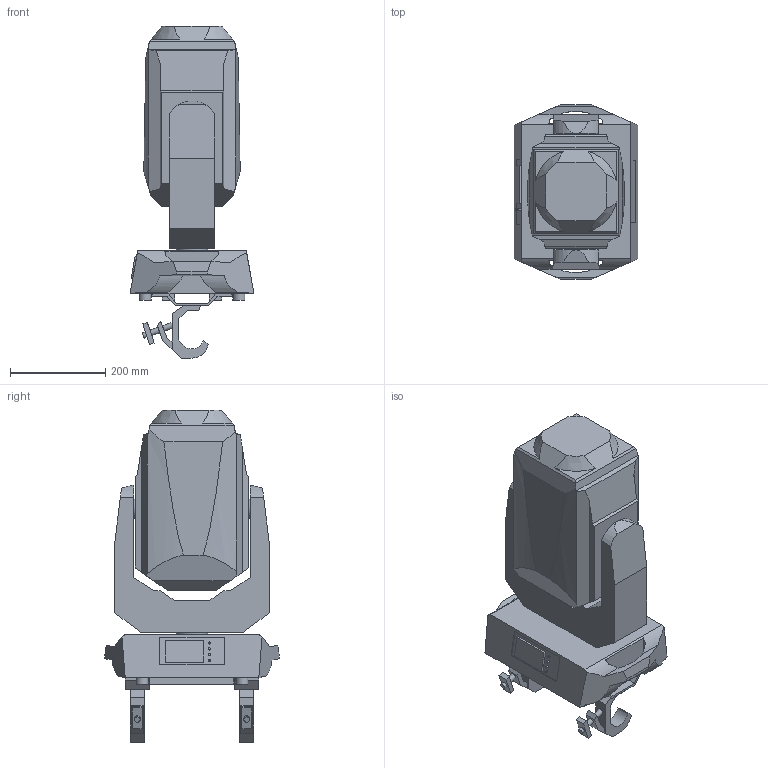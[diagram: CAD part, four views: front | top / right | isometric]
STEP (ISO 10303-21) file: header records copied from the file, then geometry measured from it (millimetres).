
FILE_DESCRIPTION( ( 'Unknown' ), '1' );
FILE_NAME( 'K:/Robin POINT/01 Robin Point/08 3D_2D dimensions/3D_RobinPointe_00.stp', 'Unknown', ( '*' ), ( '*' ), 'PSStep 15.0.49', 'SolidEdge', ' ' );
FILE_SCHEMA( ( 'AUTOMOTIVE_DESIGN { 1 0 10303 214 1 1 1 1 }' ) );
Length unit declared in the file: millimetre
Products named in the file (7): Omega_SlimClamp_00; Omega+SlimClamp; Clamp Doughty Slimline QT; Assem1; RobinPointe_Základna; RobinPointe_Rameno; RobinPointe_Hlava
Assembly tree (7 placements, depth 3):
  Assem1
    RobinPointe_Základna
    RobinPointe_Rameno
    RobinPointe_Hlava
    Omega_SlimClamp_00  x2
      Omega+SlimClamp
      Clamp Doughty Slimline QT
Bounding box: 260.04 x 366.16 x 696.76 mm (x, y, z)
Volume: 25760196.1 mm3; surface area: 963102.2 mm2
Topology: 7 solids, 7 shells, 279 faces, 719 edges, 484 vertices
Faces by surface type: plane 218, cylinder 57, cone 4
Full cylindrical faces by diameter (mm): 3.634 x1, 4 x3, 10 x8, 11 x4, 12 x8, 13 x2, 25.338 x4, 40 x4, 44.874 x1, 45.497 x1, 65.661 x1
Entity records: 8728 total; most frequent: CARTESIAN_POINT 1264, DIRECTION 1144, ORIENTED_EDGE 1080, EDGE_CURVE 540, LINE 396, VECTOR 396, VERTEX_POINT 378, AXIS2_PLACEMENT_3D 374
